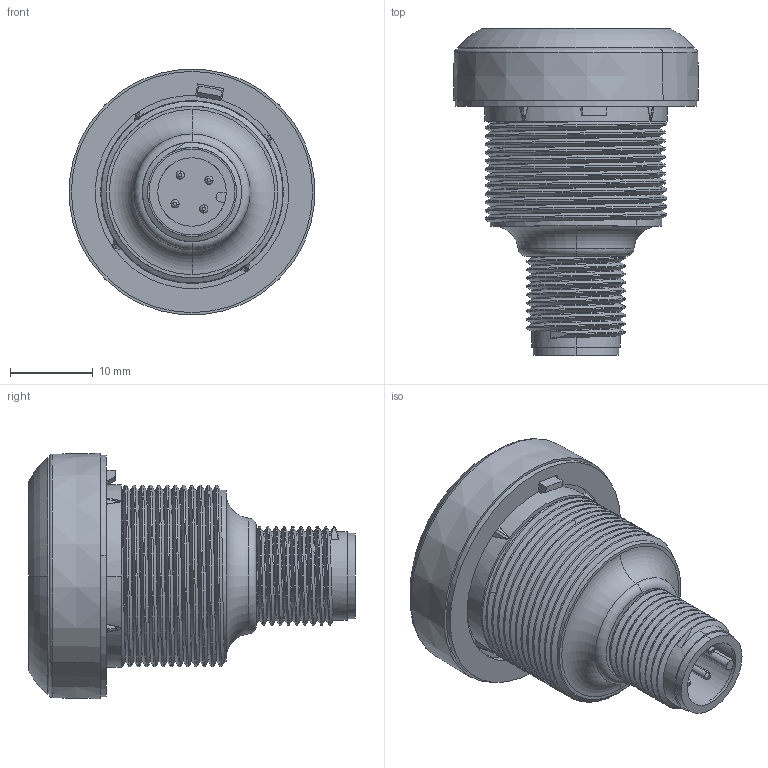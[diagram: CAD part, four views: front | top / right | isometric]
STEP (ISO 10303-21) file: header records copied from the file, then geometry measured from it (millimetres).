
FILE_DESCRIPTION((''),'2;1');
FILE_NAME('11001120X_SCHRUMPF_-03','2016-03-08T',('u52610'),(''),'PRO/ENGINEER BY PARAMETRIC TECHNOLOGY CORPORATION, 2014430','PRO/ENGINEER BY PARAMETRIC TECHNOLOGY CORPORATION, 2014430','');
FILE_SCHEMA(('CONFIG_CONTROL_DESIGN'));
Products named in the file (1): 11001120X_SCHRUMPF_-03
Bounding box: 29.69 x 39.55 x 29.69 mm (x, y, z)
Volume: 12456 mm3; surface area: 5172.2 mm2
Topology: 1 solids, 1 shells, 542 faces, 1501 edges, 976 vertices
Faces by surface type: plane 164, bspline 132, cylinder 127, torus 67, cone 52
Entity records: 43103 total; most frequent: CARTESIAN_POINT 26143, ORIENTED_EDGE 3002, DIRECTION 2176, EDGE_CURVE 1501, VERTEX_POINT 976, AXIS2_PLACEMENT_3D 874, FILL_AREA_STYLE_COLOUR 617, FILL_AREA_STYLE 617
